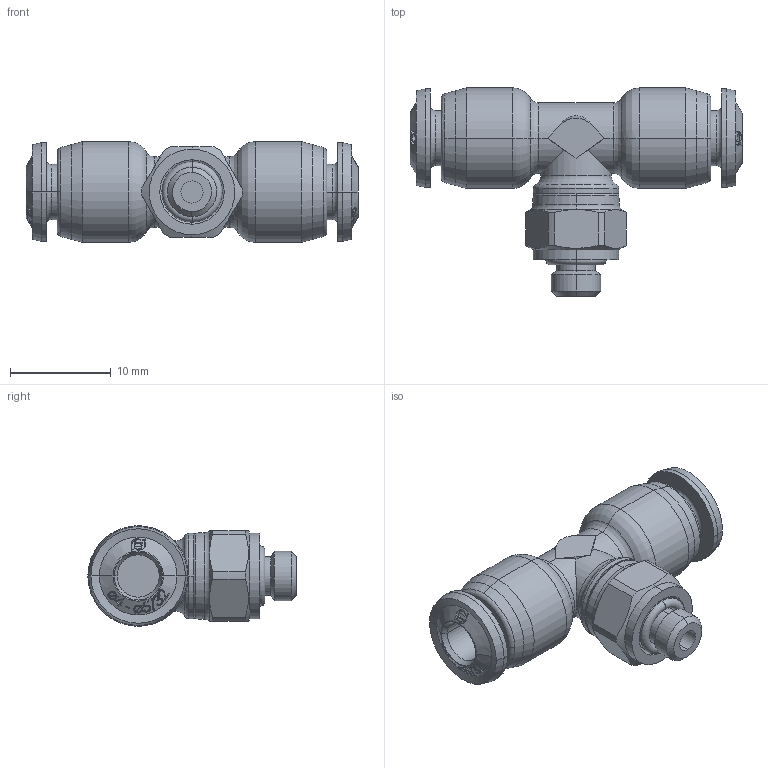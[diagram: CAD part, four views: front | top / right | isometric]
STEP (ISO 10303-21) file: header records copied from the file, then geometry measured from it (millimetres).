
FILE_DESCRIPTION (( 'STEP AP214' ), '1' );
FILE_NAME ('5521600002.step', '2012-10-02T17:40:17', ( '' ), ( '' ), 'SwSTEP 2.0', 'SolidWorks 2012', '' );
FILE_SCHEMA (( 'AUTOMOTIVE_DESIGN' ));
Length unit declared in the file: millimetre
Products named in the file (1): 5521600002
Bounding box: 33 x 20.7 x 10 mm (x, y, z)
Volume: 2405.3 mm3; surface area: 1866.9 mm2
Topology: 2 solids, 2 shells, 414 faces, 1022 edges, 650 vertices
Faces by surface type: bspline 232, cone 74, cylinder 41, torus 36, plane 31
Entity records: 25339 total; most frequent: CARTESIAN_POINT 12961, ORIENTED_EDGE 2044, EDGE_CURVE 1022, DIRECTION 844, B_SPLINE_CURVE_WITH_KNOTS 718, VERTEX_POINT 650, EDGE_LOOP 454, UNCERTAINTY_MEASURE_WITH_UNIT 418
